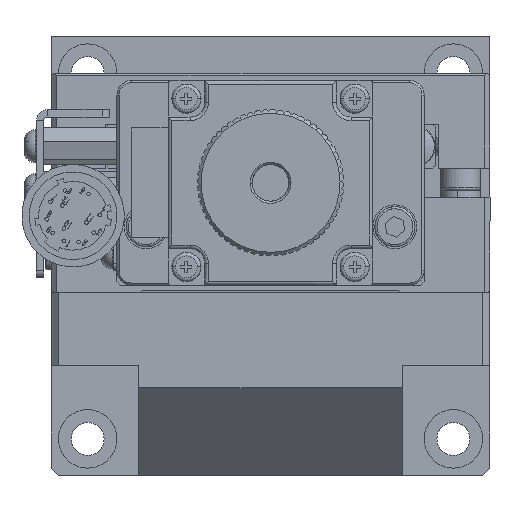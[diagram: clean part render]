
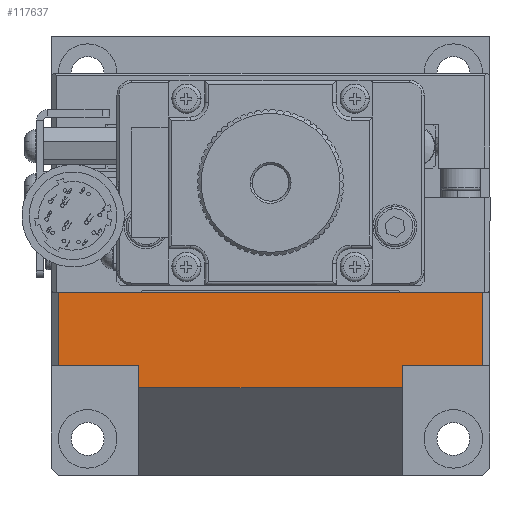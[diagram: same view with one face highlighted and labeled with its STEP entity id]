
A CAD part, front view. The second image highlights one B-rep face of the part: STEP entity #117637.
In plain terms, the highlighted planar face has unit normal (0, -1, 0).
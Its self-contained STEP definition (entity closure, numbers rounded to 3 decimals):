
#8524 = DIRECTION ( 'NONE',  ( 0., 0., 1. ) ) ;
#8809 = DIRECTION ( 'NONE',  ( 0., 0., 1. ) ) ;
#9268 = ORIENTED_EDGE ( 'NONE', *, *, #50924, .T. ) ;
#10267 = PLANE ( 'NONE',  #146348 ) ;
#13048 = VERTEX_POINT ( 'NONE', #32407 ) ;
#17262 = EDGE_CURVE ( 'NONE', #90980, #53788, #121832, .T. ) ;
#20840 = DIRECTION ( 'NONE',  ( 0., 0., -1. ) ) ;
#21200 = CARTESIAN_POINT ( 'NONE',  ( 29., -30., -10. ) ) ;
#24077 = ORIENTED_EDGE ( 'NONE', *, *, #53665, .F. ) ;
#24342 = VECTOR ( 'NONE', #8524, 1000. ) ;
#24482 = VERTEX_POINT ( 'NONE', #125751 ) ;
#25141 = LINE ( 'NONE', #39493, #24342 ) ;
#26257 = LINE ( 'NONE', #77879, #152955 ) ;
#27687 = EDGE_LOOP ( 'NONE', ( #24077, #9268, #75014, #40791, #135148, #57146, #146707, #139269 ) ) ;
#31344 = CARTESIAN_POINT ( 'NONE',  ( -125.525, -30., -10. ) ) ;
#32407 = CARTESIAN_POINT ( 'NONE',  ( 29., -30., 0. ) ) ;
#32496 = VECTOR ( 'NONE', #20840, 1000. ) ;
#39493 = CARTESIAN_POINT ( 'NONE',  ( -18., -30., -110.475 ) ) ;
#40692 = CARTESIAN_POINT ( 'NONE',  ( -125.525, -30., -10. ) ) ;
#40791 = ORIENTED_EDGE ( 'NONE', *, *, #17262, .T. ) ;
#41354 = CARTESIAN_POINT ( 'NONE',  ( -29., -30., -10. ) ) ;
#46161 = LINE ( 'NONE', #147648, #32496 ) ;
#50803 = DIRECTION ( 'NONE',  ( 1., 0., 0. ) ) ;
#50924 = EDGE_CURVE ( 'NONE', #56824, #24482, #116642, .T. ) ;
#51716 = LINE ( 'NONE', #40692, #133711 ) ;
#53665 = EDGE_CURVE ( 'NONE', #56824, #109560, #25141, .T. ) ;
#53788 = VERTEX_POINT ( 'NONE', #21200 ) ;
#56824 = VERTEX_POINT ( 'NONE', #88026 ) ;
#57146 = ORIENTED_EDGE ( 'NONE', *, *, #162759, .F. ) ;
#62676 = CARTESIAN_POINT ( 'NONE',  ( -125.525, -30., 0. ) ) ;
#64346 = DIRECTION ( 'NONE',  ( 1., 0., 0. ) ) ;
#66336 = LINE ( 'NONE', #91625, #107898 ) ;
#69284 = VECTOR ( 'NONE', #64346, 1000. ) ;
#69881 = EDGE_CURVE ( 'NONE', #109034, #128419, #46161, .T. ) ;
#75014 = ORIENTED_EDGE ( 'NONE', *, *, #114775, .T. ) ;
#75668 = EDGE_CURVE ( 'NONE', #128419, #109560, #51716, .T. ) ;
#77879 = CARTESIAN_POINT ( 'NONE',  ( -125.525, -30., 0. ) ) ;
#78942 = CARTESIAN_POINT ( 'NONE',  ( -29., -30., 0. ) ) ;
#84833 = VECTOR ( 'NONE', #94698, 1000. ) ;
#88026 = CARTESIAN_POINT ( 'NONE',  ( -18., -30., -13. ) ) ;
#88896 = EDGE_CURVE ( 'NONE', #53788, #13048, #66336, .T. ) ;
#90980 = VERTEX_POINT ( 'NONE', #155348 ) ;
#91625 = CARTESIAN_POINT ( 'NONE',  ( 29., -30., 0. ) ) ;
#94698 = DIRECTION ( 'NONE',  ( 1., 0., 0. ) ) ;
#96646 = LINE ( 'NONE', #133953, #155873 ) ;
#107898 = VECTOR ( 'NONE', #144878, 1000. ) ;
#109034 = VERTEX_POINT ( 'NONE', #78942 ) ;
#109560 = VERTEX_POINT ( 'NONE', #144429 ) ;
#111658 = FACE_OUTER_BOUND ( 'NONE', #27687, .T. ) ;
#114175 = DIRECTION ( 'NONE',  ( 0., -1., 0. ) ) ;
#114775 = EDGE_CURVE ( 'NONE', #24482, #90980, #96646, .T. ) ;
#116642 = LINE ( 'NONE', #144530, #69284 ) ;
#117637 = ADVANCED_FACE ( 'NONE', ( #111658 ), #10267, .T. ) ;
#121832 = LINE ( 'NONE', #31344, #84833 ) ;
#125751 = CARTESIAN_POINT ( 'NONE',  ( 18., -30., -13. ) ) ;
#128419 = VERTEX_POINT ( 'NONE', #41354 ) ;
#133711 = VECTOR ( 'NONE', #157342, 1000. ) ;
#133953 = CARTESIAN_POINT ( 'NONE',  ( 18., -30., -110.475 ) ) ;
#135148 = ORIENTED_EDGE ( 'NONE', *, *, #88896, .T. ) ;
#139269 = ORIENTED_EDGE ( 'NONE', *, *, #75668, .T. ) ;
#144429 = CARTESIAN_POINT ( 'NONE',  ( -18., -30., -10. ) ) ;
#144530 = CARTESIAN_POINT ( 'NONE',  ( 18., -30., -13. ) ) ;
#144878 = DIRECTION ( 'NONE',  ( 0., 0., 1. ) ) ;
#146348 = AXIS2_PLACEMENT_3D ( 'NONE', #62676, #114175, #165809 ) ;
#146707 = ORIENTED_EDGE ( 'NONE', *, *, #69881, .T. ) ;
#147648 = CARTESIAN_POINT ( 'NONE',  ( -29., -30., -10. ) ) ;
#152955 = VECTOR ( 'NONE', #50803, 1000. ) ;
#155348 = CARTESIAN_POINT ( 'NONE',  ( 18., -30., -10. ) ) ;
#155873 = VECTOR ( 'NONE', #8809, 1000. ) ;
#157342 = DIRECTION ( 'NONE',  ( 1., 0., 0. ) ) ;
#162759 = EDGE_CURVE ( 'NONE', #109034, #13048, #26257, .T. ) ;
#165809 = DIRECTION ( 'NONE',  ( 0., 0., 1. ) ) ;
